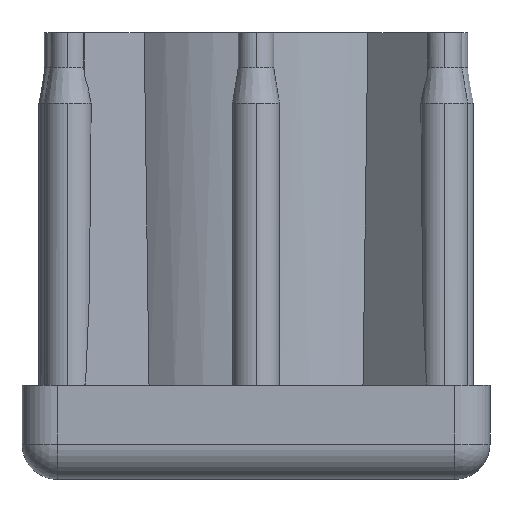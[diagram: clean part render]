
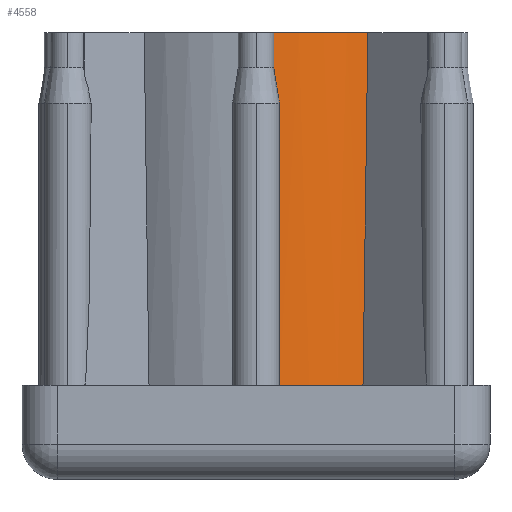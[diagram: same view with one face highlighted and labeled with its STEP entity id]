
A CAD part, left-side view. The second image highlights one B-rep face of the part: STEP entity #4558.
In plain terms, the highlighted cylindrical face has radius 15 mm (diameter 30 mm), a partial arc.
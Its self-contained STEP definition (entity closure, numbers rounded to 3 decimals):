
#170 = CARTESIAN_POINT ( 'NONE',  ( 0., 0., 30. ) ) ;
#228 = EDGE_CURVE ( 'NONE', #3216, #2091, #662, .T. ) ;
#264 = AXIS2_PLACEMENT_3D ( 'NONE', #657, #3876, #296 ) ;
#296 = DIRECTION ( 'NONE',  ( -1., 0., 0. ) ) ;
#502 = CIRCLE ( 'NONE', #2086, 15. ) ;
#657 = CARTESIAN_POINT ( 'NONE',  ( 0., 0., 30. ) ) ;
#662 =( BOUNDED_CURVE ( )  B_SPLINE_CURVE ( 3, ( #1819, #3243, #3292, #2152 ),
 .UNSPECIFIED., .F., .F. ) 
 B_SPLINE_CURVE_WITH_KNOTS ( ( 4, 4 ),
 ( -1., 0. ),
 .UNSPECIFIED. ) 
 CURVE ( )  GEOMETRIC_REPRESENTATION_ITEM ( )  RATIONAL_B_SPLINE_CURVE ( ( 1., 1., 1., 1. ) ) 
 REPRESENTATION_ITEM ( '' )  );
#666 = DIRECTION ( 'NONE',  ( 1., 0., 0. ) ) ;
#828 = CARTESIAN_POINT ( 'NONE',  ( -11.926, -9.098, 0. ) ) ;
#911 = CARTESIAN_POINT ( 'NONE',  ( -14.866, -2., 0. ) ) ;
#1017 = CARTESIAN_POINT ( 'NONE',  ( 0., 0., 0. ) ) ;
#1278 = DIRECTION ( 'NONE',  ( 1., 0., 0. ) ) ;
#1300 = ORIENTED_EDGE ( 'NONE', *, *, #2730, .F. ) ;
#1307 = CIRCLE ( 'NONE', #3200, 15. ) ;
#1738 = VERTEX_POINT ( 'NONE', #828 ) ;
#1819 = CARTESIAN_POINT ( 'NONE',  ( -14.866, -2., 0. ) ) ;
#2086 = AXIS2_PLACEMENT_3D ( 'NONE', #1017, #4233, #666 ) ;
#2091 = VERTEX_POINT ( 'NONE', #4316 ) ;
#2152 = CARTESIAN_POINT ( 'NONE',  ( -14.927, -1.476, 30. ) ) ;
#2189 =( BOUNDED_CURVE ( )  B_SPLINE_CURVE ( 3, ( #4421, #2983, #3751, #3734 ),
 .UNSPECIFIED., .F., .F. ) 
 B_SPLINE_CURVE_WITH_KNOTS ( ( 4, 4 ),
 ( -1., 0. ),
 .UNSPECIFIED. ) 
 CURVE ( )  GEOMETRIC_REPRESENTATION_ITEM ( )  RATIONAL_B_SPLINE_CURVE ( ( 1., 1., 1., 1. ) ) 
 REPRESENTATION_ITEM ( '' )  );
#2286 = EDGE_CURVE ( 'NONE', #2091, #4007, #1307, .T. ) ;
#2730 = EDGE_CURVE ( 'NONE', #4007, #1738, #2189, .T. ) ;
#2807 = EDGE_LOOP ( 'NONE', ( #3791, #3736, #1300, #3441 ) ) ;
#2983 = CARTESIAN_POINT ( 'NONE',  ( -11.71, -9.375, 19.98 ) ) ;
#3200 = AXIS2_PLACEMENT_3D ( 'NONE', #170, #3777, #1278 ) ;
#3216 = VERTEX_POINT ( 'NONE', #911 ) ;
#3243 = CARTESIAN_POINT ( 'NONE',  ( -14.89, -1.826, 9.979 ) ) ;
#3292 = CARTESIAN_POINT ( 'NONE',  ( -14.91, -1.651, 19.98 ) ) ;
#3303 = EDGE_CURVE ( 'NONE', #3216, #1738, #502, .T. ) ;
#3441 = ORIENTED_EDGE ( 'NONE', *, *, #2286, .F. ) ;
#3605 = CARTESIAN_POINT ( 'NONE',  ( -11.599, -9.511, 30. ) ) ;
#3647 = CYLINDRICAL_SURFACE ( 'NONE', #264, 15. ) ;
#3734 = CARTESIAN_POINT ( 'NONE',  ( -11.926, -9.098, 0. ) ) ;
#3736 = ORIENTED_EDGE ( 'NONE', *, *, #3303, .T. ) ;
#3751 = CARTESIAN_POINT ( 'NONE',  ( -11.82, -9.237, 9.979 ) ) ;
#3777 = DIRECTION ( 'NONE',  ( 0., 0., 1. ) ) ;
#3791 = ORIENTED_EDGE ( 'NONE', *, *, #228, .F. ) ;
#3876 = DIRECTION ( 'NONE',  ( 0., 0., -1. ) ) ;
#4007 = VERTEX_POINT ( 'NONE', #3605 ) ;
#4233 = DIRECTION ( 'NONE',  ( 0., 0., 1. ) ) ;
#4316 = CARTESIAN_POINT ( 'NONE',  ( -14.927, -1.476, 30. ) ) ;
#4421 = CARTESIAN_POINT ( 'NONE',  ( -11.599, -9.511, 30. ) ) ;
#4558 = ADVANCED_FACE ( 'NONE', ( #4577 ), #3647, .T. ) ;
#4577 = FACE_OUTER_BOUND ( 'NONE', #2807, .T. ) ;
